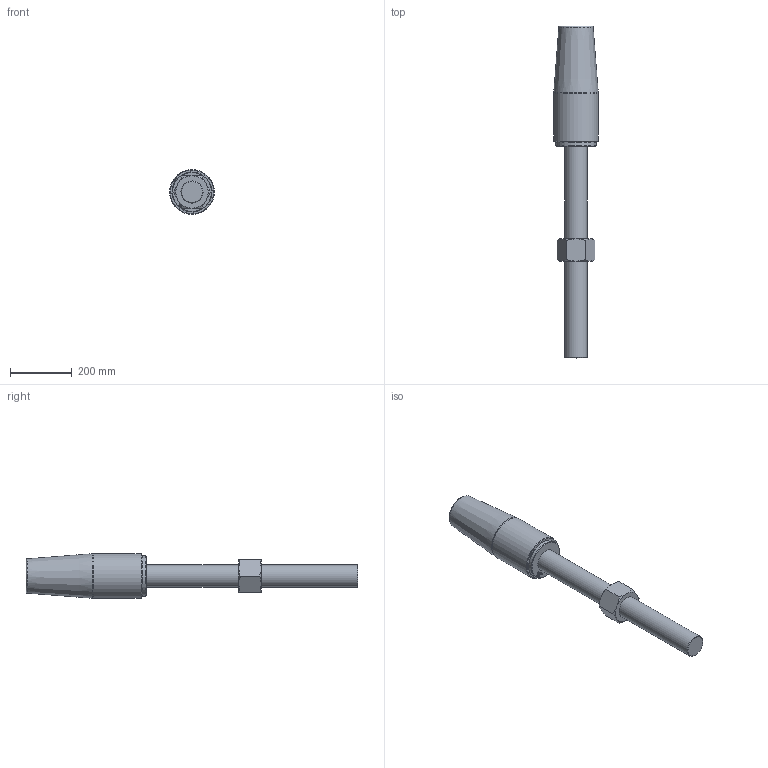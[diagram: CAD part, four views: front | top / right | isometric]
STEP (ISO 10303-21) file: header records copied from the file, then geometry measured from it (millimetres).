
FILE_DESCRIPTION(/* description */ (''),/* implementation_level */ '2;1');
FILE_NAME(/* name */ 'D:\Clienti\Redaelli (inventor)\CYB\STEP\Arrangement\CYB048 52 061 0.stp',/* time_stamp */ '2021-05-08T14:39:30+02:00',/* author */ ('fabri'),/* organization */ (''),/* preprocessor_version */ 'ST-DEVELOPER v16.13',/* originating_system */ 'Autodesk Inventor 2018',/* authorisation */ '');
FILE_SCHEMA (('AUTOMOTIVE_DESIGN { 1 0 10303 214 3 1 1 }'));
Length unit declared in the file: millimetre
Products named in the file (5): CYB012-52-061-0; RNT048 41 051 0_ROD; UNI 5587 - M72 x 4; CCY021-51-061-0_BUSH; CCY021-51-061-0
Assembly tree (4 placements, depth 2):
  CYB012-52-061-0
    RNT048 41 051 0_ROD
    UNI 5587 - M72 x 4
    CCY021-51-061-0_BUSH
    CCY021-51-061-0
Bounding box: 144.52 x 1076 x 144.52 mm (x, y, z)
Volume: 9800787.8 mm3; surface area: 509703.4 mm2
Topology: 4 solids, 4 shells, 718 faces, 1895 edges, 1256 vertices
Faces by surface type: bspline 360, plane 327, cone 19, cylinder 8, torus 4
Full cylindrical faces by diameter (mm): 67.67 x2, 72 x1, 73 x1, 100 x1, 110 x1, 130 x1, 145 x1
Entity records: 23965 total; most frequent: CARTESIAN_POINT 8600, ORIENTED_EDGE 3750, DIRECTION 1907, EDGE_CURVE 1875, VERTEX_POINT 1255, LINE 1091, VECTOR 1091, EDGE_LOOP 812
